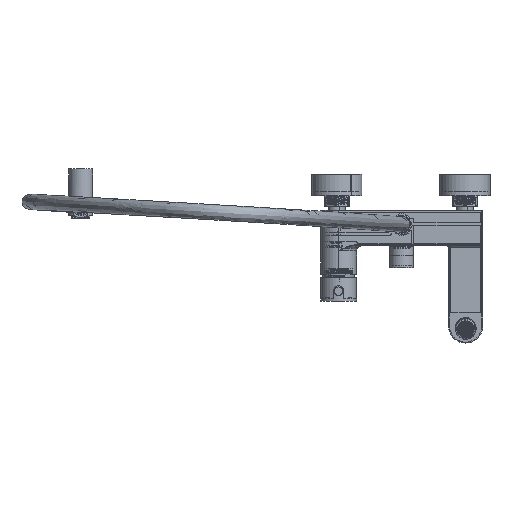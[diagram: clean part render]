
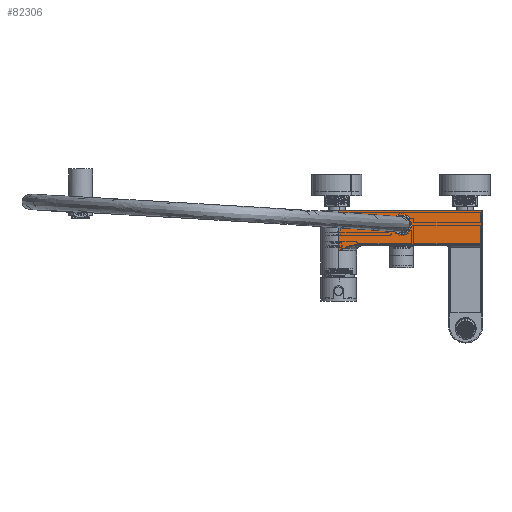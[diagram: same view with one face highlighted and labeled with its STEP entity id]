
A CAD part, top view. The second image highlights one B-rep face of the part: STEP entity #82306.
In plain terms, the highlighted planar face has unit normal (0, 0, 1).
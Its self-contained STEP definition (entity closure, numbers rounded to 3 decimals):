
#45 = CARTESIAN_POINT ( 'NONE',  ( 168., 0., 21. ) ) ;
#2664 = PLANE ( 'NONE',  #106683 ) ;
#3429 = LINE ( 'NONE', #75837, #36998 ) ;
#6504 = CARTESIAN_POINT ( 'NONE',  ( 2.469, -46.55, 21. ) ) ;
#7104 = CARTESIAN_POINT ( 'NONE',  ( 5.055, -45.1, 21. ) ) ;
#7751 = CARTESIAN_POINT ( 'NONE',  ( 9.078, -43.138, 21. ) ) ;
#8251 = VERTEX_POINT ( 'NONE', #162151 ) ;
#8526 = VERTEX_POINT ( 'NONE', #170810 ) ;
#9387 = CARTESIAN_POINT ( 'NONE',  ( 0., 0., 21. ) ) ;
#13676 = LINE ( 'NONE', #45, #152780 ) ;
#14799 = ORIENTED_EDGE ( 'NONE', *, *, #182135, .F. ) ;
#17035 = DIRECTION ( 'NONE',  ( 1., 0., 0. ) ) ;
#18718 = DIRECTION ( 'NONE',  ( 1., 0., 0. ) ) ;
#20877 = CARTESIAN_POINT ( 'NONE',  ( 2.571, -46.491, 21. ) ) ;
#21122 = EDGE_LOOP ( 'NONE', ( #147221, #167254 ) ) ;
#21506 = CARTESIAN_POINT ( 'NONE',  ( 5.089, -45.082, 21. ) ) ;
#22123 = CARTESIAN_POINT ( 'NONE',  ( 9.646, -42.9, 21. ) ) ;
#23774 = DIRECTION ( 'NONE',  ( 0., 1., 0. ) ) ;
#30283 = EDGE_CURVE ( 'NONE', #46213, #99572, #118820, .T. ) ;
#35298 = CARTESIAN_POINT ( 'NONE',  ( 2.594, -46.478, 21. ) ) ;
#35915 = CARTESIAN_POINT ( 'NONE',  ( 6.146, -44.523, 21. ) ) ;
#36536 = CARTESIAN_POINT ( 'NONE',  ( 15.629, -41., 21. ) ) ;
#36998 = VECTOR ( 'NONE', #18718, 1000. ) ;
#38635 = CARTESIAN_POINT ( 'NONE',  ( 74., -17., 21. ) ) ;
#40907 = CARTESIAN_POINT ( 'NONE',  ( 168., -1., 21. ) ) ;
#43896 = DIRECTION ( 'NONE',  ( 0., 1., 0. ) ) ;
#43946 = DIRECTION ( 'NONE',  ( -1., 0., 0. ) ) ;
#46213 = VERTEX_POINT ( 'NONE', #40907 ) ;
#47883 = CARTESIAN_POINT ( 'NONE',  ( 74., -17., 21. ) ) ;
#49713 = CARTESIAN_POINT ( 'NONE',  ( 2.6, -46.474, 21. ) ) ;
#50346 = CARTESIAN_POINT ( 'NONE',  ( 7.178, -44.009, 21. ) ) ;
#53040 = DIRECTION ( 'NONE',  ( 1., 0., 0. ) ) ;
#54896 = VERTEX_POINT ( 'NONE', #178165 ) ;
#57443 = AXIS2_PLACEMENT_3D ( 'NONE', #47883, #148257, #62275 ) ;
#62275 = DIRECTION ( 'NONE',  ( 1., 0., 0. ) ) ;
#64159 = CARTESIAN_POINT ( 'NONE',  ( 3.721, -45.833, 21. ) ) ;
#64781 = CARTESIAN_POINT ( 'NONE',  ( 7.417, -43.894, 21. ) ) ;
#70491 = EDGE_LOOP ( 'NONE', ( #101118, #14799, #142133, #147142, #102703 ) ) ;
#75837 = CARTESIAN_POINT ( 'NONE',  ( 0., -41., 21. ) ) ;
#78000 = CARTESIAN_POINT ( 'NONE',  ( 1.319, -47.221, 21. ) ) ;
#78606 = CARTESIAN_POINT ( 'NONE',  ( 4.771, -45.254, 21. ) ) ;
#79226 = CARTESIAN_POINT ( 'NONE',  ( 7.487, -43.86, 21. ) ) ;
#79754 = FACE_BOUND ( 'NONE', #21122, .T. ) ;
#80588 = VECTOR ( 'NONE', #43946, 1000. ) ;
#82306 = ADVANCED_FACE ( 'NONE', ( #79754, #117993 ), #2664, .T. ) ;
#83453 = EDGE_CURVE ( 'NONE', #173292, #54896, #124440, .T. ) ;
#87131 = EDGE_CURVE ( 'NONE', #107658, #46213, #13676, .T. ) ;
#92468 = CARTESIAN_POINT ( 'NONE',  ( 2.327, -46.633, 21. ) ) ;
#93094 = CARTESIAN_POINT ( 'NONE',  ( 5.02, -45.119, 21. ) ) ;
#93702 = CARTESIAN_POINT ( 'NONE',  ( 8.502, -43.386, 21. ) ) ;
#99572 = VERTEX_POINT ( 'NONE', #125676 ) ;
#101118 = ORIENTED_EDGE ( 'NONE', *, *, #30283, .T. ) ;
#101633 = CARTESIAN_POINT ( 'NONE',  ( 168., -41., 21. ) ) ;
#102703 = ORIENTED_EDGE ( 'NONE', *, *, #87131, .T. ) ;
#103024 = DIRECTION ( 'NONE',  ( 0., 0., 1. ) ) ;
#106683 = AXIS2_PLACEMENT_3D ( 'NONE', #172631, #103024, #17035 ) ;
#106897 = CARTESIAN_POINT ( 'NONE',  ( 2.537, -46.511, 21. ) ) ;
#107508 = CARTESIAN_POINT ( 'NONE',  ( 5.078, -45.088, 21. ) ) ;
#107658 = VERTEX_POINT ( 'NONE', #101633 ) ;
#108124 = CARTESIAN_POINT ( 'NONE',  ( 9.459, -42.977, 21. ) ) ;
#115506 = CARTESIAN_POINT ( 'NONE',  ( 0., -1., 21. ) ) ;
#115924 = AXIS2_PLACEMENT_3D ( 'NONE', #38635, #139034, #53040 ) ;
#117993 = FACE_OUTER_BOUND ( 'NONE', #70491, .T. ) ;
#118820 = LINE ( 'NONE', #115506, #80588 ) ;
#121323 = CARTESIAN_POINT ( 'NONE',  ( 2.587, -46.482, 21. ) ) ;
#121935 = CARTESIAN_POINT ( 'NONE',  ( 5.526, -44.847, 21. ) ) ;
#122563 = CARTESIAN_POINT ( 'NONE',  ( 12.862, -41.608, 21. ) ) ;
#124440 = CIRCLE ( 'NONE', #57443, 10.75 ) ;
#125676 = CARTESIAN_POINT ( 'NONE',  ( 0., -1., 21. ) ) ;
#134926 = CARTESIAN_POINT ( 'NONE',  ( 84.75, -17., 21. ) ) ;
#135705 = CARTESIAN_POINT ( 'NONE',  ( 2.599, -46.475, 21. ) ) ;
#136316 = CARTESIAN_POINT ( 'NONE',  ( 6.839, -44.175, 21. ) ) ;
#136335 = LINE ( 'NONE', #9387, #152014 ) ;
#136946 = CARTESIAN_POINT ( 'NONE',  ( 18.138, -41., 21. ) ) ;
#139034 = DIRECTION ( 'NONE',  ( 0., 0., -1. ) ) ;
#142133 = ORIENTED_EDGE ( 'NONE', *, *, #150649, .T. ) ;
#146159 = EDGE_CURVE ( 'NONE', #8526, #107658, #3429, .T. ) ;
#147142 = ORIENTED_EDGE ( 'NONE', *, *, #146159, .T. ) ;
#147221 = ORIENTED_EDGE ( 'NONE', *, *, #83453, .T. ) ;
#148257 = DIRECTION ( 'NONE',  ( 0., 0., -1. ) ) ;
#149518 = CARTESIAN_POINT ( 'NONE',  ( 0., -48., 21. ) ) ;
#149664 = B_SPLINE_CURVE_WITH_KNOTS ( 'NONE', 3,
 ( #149518, #163930, #78000, #178310, #92468, #6504, #106897, #20877, #121323, #35298, #135705, #49713, #150138, #64159, #164547, #78606, #178905, #93094, #7104, #107508, #21506, #121935, #35915, #136316, #50346, #150746, #64781, #165183, #79226, #179513, #93702, #7751, #108124, #22123, #122563, #36536, #136946 ),
 .UNSPECIFIED., .F., .F.,
 ( 4, 1, 1, 1, 1, 1, 1, 1, 2, 2, 1, 1, 1, 1, 1, 2, 2, 1, 1, 1, 1, 2, 2, 1, 2, 2, 4 ),
 ( 0., 0.063, 0.094, 0.109, 0.117, 0.121, 0.123, 0.124, 0.125, 0.125, 0.188, 0.219, 0.234, 0.242, 0.246, 0.248, 0.25, 0.313, 0.344, 0.359, 0.367, 0.371, 0.375, 0.438, 0.469, 0.5, 1. ),
 .UNSPECIFIED. ) ;
#150138 = CARTESIAN_POINT ( 'NONE',  ( 3.064, -46.207, 21. ) ) ;
#150649 = EDGE_CURVE ( 'NONE', #8251, #8526, #149664, .T. ) ;
#150746 = CARTESIAN_POINT ( 'NONE',  ( 7.346, -43.928, 21. ) ) ;
#152014 = VECTOR ( 'NONE', #23774, 1000. ) ;
#152780 = VECTOR ( 'NONE', #43896, 1000. ) ;
#162151 = CARTESIAN_POINT ( 'NONE',  ( 0., -48., 21. ) ) ;
#163930 = CARTESIAN_POINT ( 'NONE',  ( 0.568, -47.664, 21. ) ) ;
#164547 = CARTESIAN_POINT ( 'NONE',  ( 4.43, -45.44, 21. ) ) ;
#165183 = CARTESIAN_POINT ( 'NONE',  ( 7.465, -43.871, 21. ) ) ;
#167254 = ORIENTED_EDGE ( 'NONE', *, *, #173758, .T. ) ;
#170810 = CARTESIAN_POINT ( 'NONE',  ( 18.138, -41., 21. ) ) ;
#172631 = CARTESIAN_POINT ( 'NONE',  ( 0., 0., 21. ) ) ;
#173292 = VERTEX_POINT ( 'NONE', #134926 ) ;
#173758 = EDGE_CURVE ( 'NONE', #54896, #173292, #184809, .T. ) ;
#178165 = CARTESIAN_POINT ( 'NONE',  ( 63.25, -17., 21. ) ) ;
#178310 = CARTESIAN_POINT ( 'NONE',  ( 2.02, -46.811, 21. ) ) ;
#178905 = CARTESIAN_POINT ( 'NONE',  ( 4.938, -45.164, 21. ) ) ;
#179513 = CARTESIAN_POINT ( 'NONE',  ( 7.912, -43.657, 21. ) ) ;
#182135 = EDGE_CURVE ( 'NONE', #8251, #99572, #136335, .T. ) ;
#184809 = CIRCLE ( 'NONE', #115924, 10.75 ) ;
